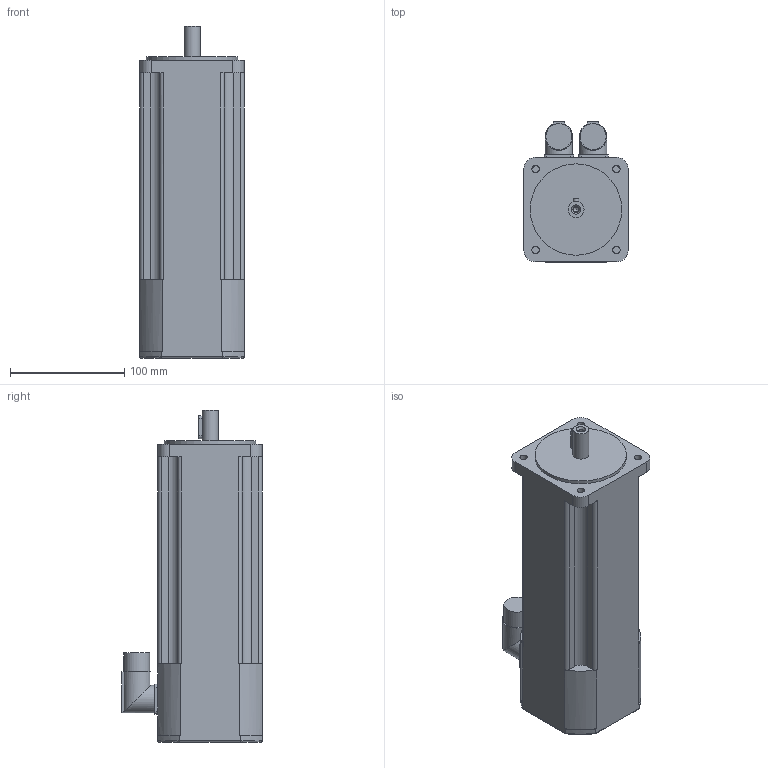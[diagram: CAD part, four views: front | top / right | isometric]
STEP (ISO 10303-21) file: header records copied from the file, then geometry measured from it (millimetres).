
FILE_DESCRIPTION(/* description */ (''),/* implementation_level */ '2;1');
FILE_NAME(/* name */ '\\Lafnas01\disegni\Archivi Lafert\3D\CAD 3D\MODELLI\Assiemi clienti\Serad\Modelli 3D Serad\B56I\Encoder\Enc Without Brake\B5603Ixx6ARx2033.ipt.stp',/* time_stamp */ '2015-09-07T10:49:56+02:00',/* author */ ('Pastrello Ylenia'),/* organization */ (''),/* preprocessor_version */ 'ST-DEVELOPER v15.6',/* originating_system */ 'Autodesk Inventor 2015',/* authorisation */ '');
FILE_SCHEMA (('AUTOMOTIVE_DESIGN { 1 0 10303 214 3 1 1 }'));
Length unit declared in the file: millimetre
Products named in the file (1): B5603Ixx6ARx2033
Bounding box: 91.3 x 122.8 x 290.5 mm (x, y, z)
Volume: 1985224.8 mm3; surface area: 117378.3 mm2
Topology: 1 solids, 1 shells, 133 faces, 339 edges, 215 vertices
Faces by surface type: plane 74, cylinder 52, torus 4, cone 3
Full cylindrical faces by diameter (mm): 4.134 x1, 5.3 x1, 6.5 x4, 14 x1, 22.7 x2, 24 x2, 80 x1
Entity records: 4088 total; most frequent: CARTESIAN_POINT 804, DIRECTION 726, ORIENTED_EDGE 640, EDGE_CURVE 320, AXIS2_PLACEMENT_3D 282, VERTEX_POINT 212, EDGE_LOOP 164, LINE 162
